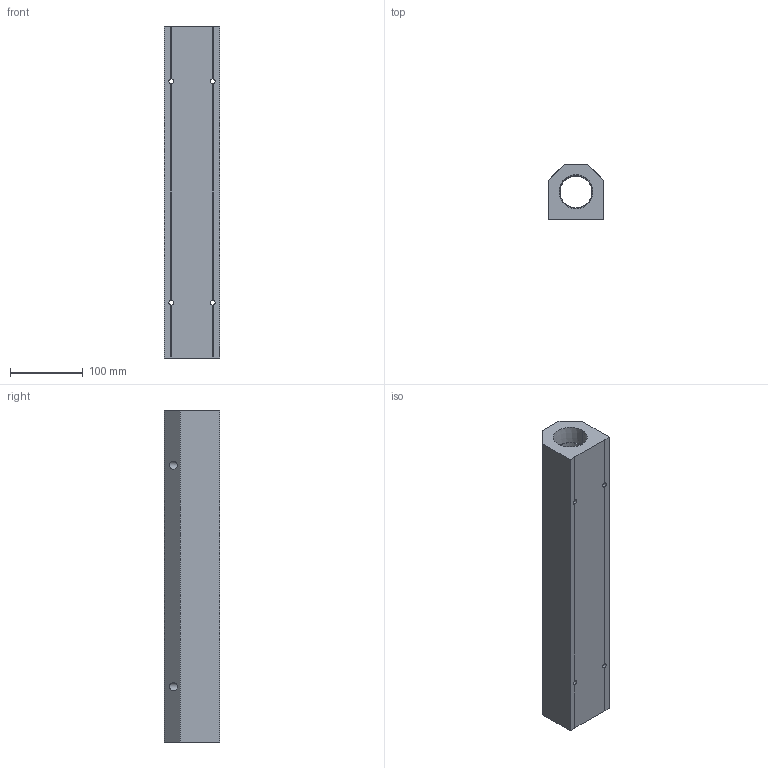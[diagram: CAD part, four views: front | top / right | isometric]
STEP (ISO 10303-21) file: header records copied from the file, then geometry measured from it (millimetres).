
FILE_DESCRIPTION (( 'STEP AP214' ), '1' );
FILE_NAME ('ALM8C-N4N24-457B.step', '2022-02-07T07:46:32', ( '' ), ( '' ), 'SwSTEP 2.0', 'SolidWorks 2020', '' );
FILE_SCHEMA (( 'AUTOMOTIVE_DESIGN' ));
Length unit declared in the file: millimetre
Products named in the file (1): ALM8C-N4N24-457B
Bounding box: 76.2 x 76.2 x 457 mm (x, y, z)
Volume: 1687346.8 mm3; surface area: 207066.8 mm2
Topology: 1 solids, 1 shells, 302 faces, 796 edges, 528 vertices
Faces by surface type: plane 210, bspline 54, cone 20, cylinder 18
Entity records: 16201 total; most frequent: CARTESIAN_POINT 6249, ORIENTED_EDGE 1592, DIRECTION 1206, EDGE_CURVE 796, LINE 604, VECTOR 604, VERTEX_POINT 528, EDGE_LOOP 360
